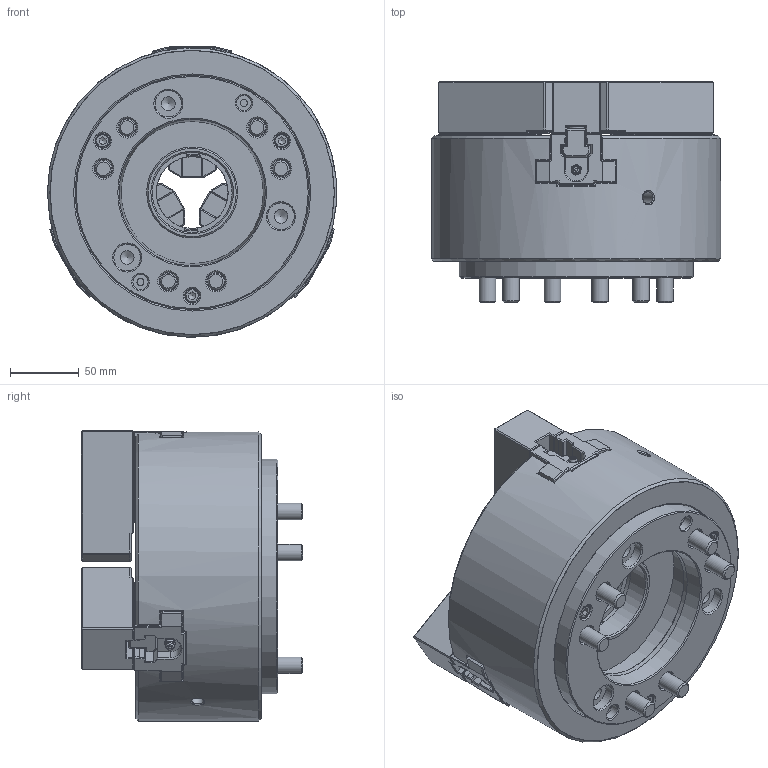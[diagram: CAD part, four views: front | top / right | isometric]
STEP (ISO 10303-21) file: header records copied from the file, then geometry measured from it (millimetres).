
FILE_DESCRIPTION(/* description */ (''),/* implementation_level */ '2;1');
FILE_NAME(/* name */ '\\Itserver\個人資料夾\柯玫如\8.網頁3D討論\1.中空油壓系列\1-1中空油壓夾頭\OP系列\OP-208\OP-208-A6.stp',/* time_stamp */ '2024-08-09T14:20:37+08:00',/* author */ ('034'),/* organization */ (''),/* preprocessor_version */ 'ST-DEVELOPER v16.13',/* originating_system */ 'Autodesk Inventor 2018',/* authorisation */ '');
FILE_SCHEMA (('AUTOMOTIVE_DESIGN { 1 0 10303 214 3 1 1 }'));
Products named in the file (1): OP-208-A6
Bounding box: 209.75 x 160.39 x 210.72 mm (x, y, z)
Volume: 3203464.6 mm3; surface area: 332633.2 mm2
Topology: 1 solids, 17 shells, 5275 faces, 16916 edges, 10804 vertices
Faces by surface type: plane 3268, cylinder 1294, bspline 443, cone 201, torus 54, sphere 15
Full cylindrical faces by diameter (mm): 3 x12, 3.8 x6, 4.3 x3, 5 x3, 5.1 x5, 5.2 x3, 5.5 x3, 6 x6, 6.6 x3, 8.6 x8, 9.5 x3, 10 x6, 10.3 x6, 11 x5, 12 x12, 13 x6, 13.5 x12, 18 x12, 19 x6, 19.3 x3, 20 x6, 52 x1, 55.5 x1, 56 x1, 58 x1, 60.5 x1, 63.972 x1, 66 x1, 103.2 x1, 117.507 x1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
Entity records: 186234 total; most frequent: CARTESIAN_POINT 39731, ORIENTED_EDGE 32856, DIRECTION 27936, EDGE_CURVE 16428, LINE 12268, VECTOR 12268, VERTEX_POINT 10650, AXIS2_PLACEMENT_3D 7834
